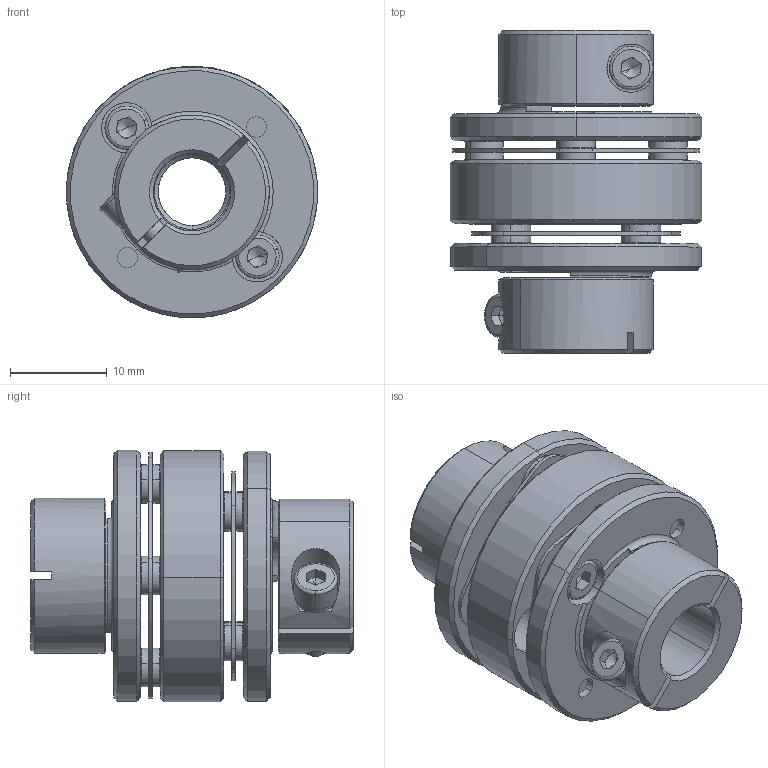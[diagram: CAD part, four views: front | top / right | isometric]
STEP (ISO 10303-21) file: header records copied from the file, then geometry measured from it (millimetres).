
FILE_DESCRIPTION (( 'STEP AP203' ), '1' );
FILE_NAME ('LE2-B-D26L35-7-8.STEP', '2021-11-01T05:49:14', ( '' ), ( '' ), 'SwSTEP 2.0', 'SolidWorks 2018', '' );
FILE_SCHEMA (( 'CONFIG_CONTROL_DESIGN' ));
Length unit declared in the file: millimetre
Products named in the file (1): LE2-B-D26L35-7-8
Bounding box: 26 x 33.4 x 26.06 mm (x, y, z)
Volume: 7521.1 mm3; surface area: 8311.3 mm2
Topology: 1 solids, 17 shells, 676 faces, 1573 edges, 945 vertices
Faces by surface type: cylinder 227, plane 220, cone 205, torus 24
Entity records: 19513 total; most frequent: DIRECTION 3652, CARTESIAN_POINT 3504, ORIENTED_EDGE 3106, EDGE_CURVE 1553, AXIS2_PLACEMENT_3D 1477, VERTEX_POINT 945, CIRCLE 800, EDGE_LOOP 784
